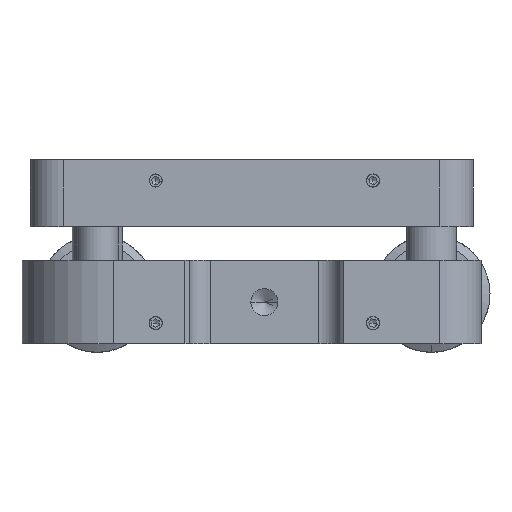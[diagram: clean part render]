
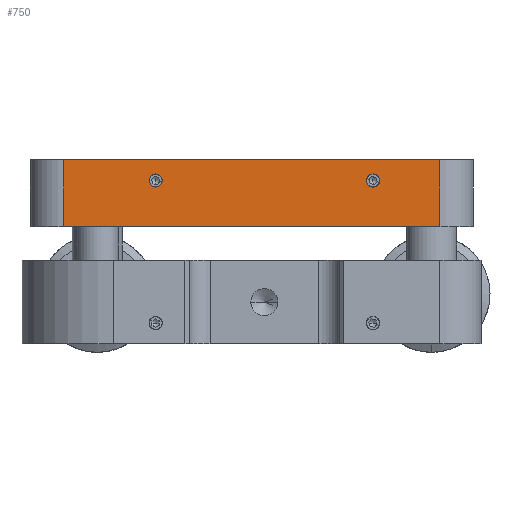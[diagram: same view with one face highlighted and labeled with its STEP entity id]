
A CAD part, front view. The second image highlights one B-rep face of the part: STEP entity #750.
In plain terms, the highlighted planar face has unit normal (0, -1, 0).
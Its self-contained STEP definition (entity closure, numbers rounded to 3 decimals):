
#247 = EDGE_CURVE ( 'NONE', #1748, #1740, #9423, .T. ) ;
#256 = EDGE_CURVE ( 'NONE', #1710, #1712, #9417, .T. ) ;
#736 = EDGE_LOOP ( 'NONE', ( #737, #738 ) ) ;
#737 = ORIENTED_EDGE ( 'NONE', *, *, #1747, .T. ) ;
#738 = ORIENTED_EDGE ( 'NONE', *, *, #247, .T. ) ;
#750 = ADVANCED_FACE ( 'NONE', ( #9985, #9984, #9983 ), #9982, .T. ) ;
#751 = EDGE_LOOP ( 'NONE', ( #752, #755, #757, #758 ) ) ;
#752 = ORIENTED_EDGE ( 'NONE', *, *, #753, .F. ) ;
#753 = EDGE_CURVE ( 'NONE', #754, #27392, #9977, .T. ) ;
#754 = VERTEX_POINT ( 'NONE', #9973 ) ;
#755 = ORIENTED_EDGE ( 'NONE', *, *, #756, .F. ) ;
#756 = EDGE_CURVE ( 'NONE', #770, #754, #9972, .T. ) ;
#757 = ORIENTED_EDGE ( 'NONE', *, *, #769, .T. ) ;
#758 = ORIENTED_EDGE ( 'NONE', *, *, #27390, .T. ) ;
#759 = EDGE_LOOP ( 'NONE', ( #813, #814 ) ) ;
#769 = EDGE_CURVE ( 'NONE', #770, #17250, #10026, .T. ) ;
#770 = VERTEX_POINT ( 'NONE', #10022 ) ;
#813 = ORIENTED_EDGE ( 'NONE', *, *, #1702, .T. ) ;
#814 = ORIENTED_EDGE ( 'NONE', *, *, #256, .T. ) ;
#1702 = EDGE_CURVE ( 'NONE', #1712, #1710, #11699, .T. ) ;
#1710 = VERTEX_POINT ( 'NONE', #11743 ) ;
#1712 = VERTEX_POINT ( 'NONE', #11742 ) ;
#1740 = VERTEX_POINT ( 'NONE', #11802 ) ;
#1747 = EDGE_CURVE ( 'NONE', #1740, #1748, #11831, .T. ) ;
#1748 = VERTEX_POINT ( 'NONE', #11826 ) ;
#9409 = DIRECTION ( 'NONE',  ( 1., 0., 0. ) ) ;
#9410 = DIRECTION ( 'NONE',  ( 0., 1., 0. ) ) ;
#9411 = CARTESIAN_POINT ( 'NONE',  ( -14.098, -19.292, 19.559 ) ) ;
#9412 = AXIS2_PLACEMENT_3D ( 'NONE', #9411, #9410, #9409 ) ;
#9417 = CIRCLE ( 'NONE', #9412, 0.783 ) ;
#9420 = DIRECTION ( 'NONE',  ( 1., 0., 0. ) ) ;
#9421 = DIRECTION ( 'NONE',  ( 0., 1., 0. ) ) ;
#9422 = AXIS2_PLACEMENT_3D ( 'NONE', #9428, #9421, #9420 ) ;
#9423 = CIRCLE ( 'NONE', #9422, 0.783 ) ;
#9428 = CARTESIAN_POINT ( 'NONE',  ( -40.098, -19.292, 19.559 ) ) ;
#9969 = DIRECTION ( 'NONE',  ( -1., 0., 0. ) ) ;
#9970 = VECTOR ( 'NONE', #9969, 1000. ) ;
#9971 = CARTESIAN_POINT ( 'NONE',  ( -41.598, -19.292, 14.059 ) ) ;
#9972 = LINE ( 'NONE', #9971, #9970 ) ;
#9973 = CARTESIAN_POINT ( 'NONE',  ( -51.098, -19.292, 14.059 ) ) ;
#9974 = DIRECTION ( 'NONE',  ( 0., 0., 1. ) ) ;
#9975 = VECTOR ( 'NONE', #9974, 1000. ) ;
#9976 = CARTESIAN_POINT ( 'NONE',  ( -51.098, -19.292, 22.059 ) ) ;
#9977 = LINE ( 'NONE', #9976, #9975 ) ;
#9978 = DIRECTION ( 'NONE',  ( 1., 0., 0. ) ) ;
#9979 = DIRECTION ( 'NONE',  ( 0., -1., 0. ) ) ;
#9980 = CARTESIAN_POINT ( 'NONE',  ( -55.098, -19.292, 22.059 ) ) ;
#9981 = AXIS2_PLACEMENT_3D ( 'NONE', #9980, #9979, #9978 ) ;
#9982 = PLANE ( 'NONE',  #9981 ) ;
#9983 = FACE_BOUND ( 'NONE', #736, .T. ) ;
#9984 = FACE_BOUND ( 'NONE', #759, .T. ) ;
#9985 = FACE_OUTER_BOUND ( 'NONE', #751, .T. ) ;
#10022 = CARTESIAN_POINT ( 'NONE',  ( -6.098, -19.292, 14.059 ) ) ;
#10023 = DIRECTION ( 'NONE',  ( 0., 0., 1. ) ) ;
#10024 = VECTOR ( 'NONE', #10023, 1000. ) ;
#10025 = CARTESIAN_POINT ( 'NONE',  ( -6.098, -19.292, 22.059 ) ) ;
#10026 = LINE ( 'NONE', #10025, #10024 ) ;
#11695 = DIRECTION ( 'NONE',  ( 1., 0., 0. ) ) ;
#11696 = DIRECTION ( 'NONE',  ( 0., 1., 0. ) ) ;
#11697 = CARTESIAN_POINT ( 'NONE',  ( -14.098, -19.292, 19.559 ) ) ;
#11698 = AXIS2_PLACEMENT_3D ( 'NONE', #11697, #11696, #11695 ) ;
#11699 = CIRCLE ( 'NONE', #11698, 0.783 ) ;
#11742 = CARTESIAN_POINT ( 'NONE',  ( -13.315, -19.292, 19.559 ) ) ;
#11743 = CARTESIAN_POINT ( 'NONE',  ( -14.882, -19.292, 19.559 ) ) ;
#11802 = CARTESIAN_POINT ( 'NONE',  ( -39.315, -19.292, 19.559 ) ) ;
#11826 = CARTESIAN_POINT ( 'NONE',  ( -40.882, -19.292, 19.559 ) ) ;
#11827 = DIRECTION ( 'NONE',  ( 1., 0., 0. ) ) ;
#11828 = DIRECTION ( 'NONE',  ( 0., 1., 0. ) ) ;
#11829 = CARTESIAN_POINT ( 'NONE',  ( -40.098, -19.292, 19.559 ) ) ;
#11830 = AXIS2_PLACEMENT_3D ( 'NONE', #11829, #11828, #11827 ) ;
#11831 = CIRCLE ( 'NONE', #11830, 0.783 ) ;
#17250 = VERTEX_POINT ( 'NONE', #20446 ) ;
#20437 = CARTESIAN_POINT ( 'NONE',  ( -51.098, -19.292, 22.059 ) ) ;
#20438 = DIRECTION ( 'NONE',  ( -1., 0., 0. ) ) ;
#20439 = VECTOR ( 'NONE', #20438, 1000. ) ;
#20440 = CARTESIAN_POINT ( 'NONE',  ( -55.098, -19.292, 22.059 ) ) ;
#20441 = LINE ( 'NONE', #20440, #20439 ) ;
#20446 = CARTESIAN_POINT ( 'NONE',  ( -6.098, -19.292, 22.059 ) ) ;
#27390 = EDGE_CURVE ( 'NONE', #17250, #27392, #20441, .T. ) ;
#27392 = VERTEX_POINT ( 'NONE', #20437 ) ;
